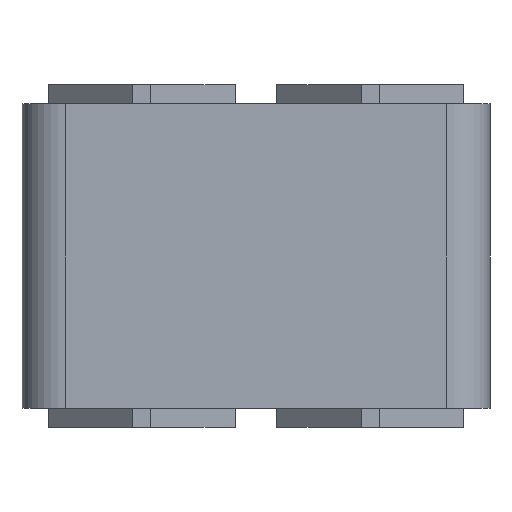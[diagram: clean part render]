
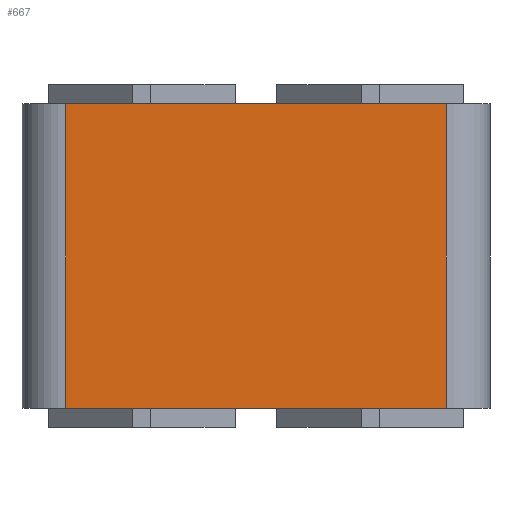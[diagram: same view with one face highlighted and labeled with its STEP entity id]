
A CAD part, left-side view. The second image highlights one B-rep face of the part: STEP entity #667.
In plain terms, the highlighted planar face has unit normal (-1, 0, 0).
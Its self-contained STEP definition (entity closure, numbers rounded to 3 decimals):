
#602=CARTESIAN_POINT('',(-31.5,-50.,80.0));
#603=VERTEX_POINT('',#602);
#611=CARTESIAN_POINT('',(-31.5,-50.,0.0));
#612=VERTEX_POINT('',#611);
#613=CARTESIAN_POINT('',(-31.5,-50.,0.0));
#614=DIRECTION('',(0.0,0.0,1.0));
#615=VECTOR('',#614,80.0);
#616=LINE('',#613,#615);
#617=EDGE_CURVE('',#612,#603,#616,.T.);
#637=CARTESIAN_POINT('',(-31.5,-50.,0.0));
#638=DIRECTION('',(-1.0,0.,0.0));
#639=DIRECTION('',(0.0,0.0,1.0));
#640=AXIS2_PLACEMENT_3D('',#637,#638,#639);
#641=PLANE('',#640);
#642=CARTESIAN_POINT('',(-31.5,50.,80.0));
#643=VERTEX_POINT('',#642);
#644=CARTESIAN_POINT('',(-31.5,-50.,80.0));
#645=DIRECTION('',(0.,1.0,0.0));
#646=VECTOR('',#645,100.);
#647=LINE('',#644,#646);
#648=EDGE_CURVE('',#603,#643,#647,.T.);
#649=ORIENTED_EDGE('',*,*,#648,.T.);
#650=CARTESIAN_POINT('',(-31.5,50.,0.0));
#651=VERTEX_POINT('',#650);
#652=CARTESIAN_POINT('',(-31.5,50.,0.0));
#653=DIRECTION('',(0.0,0.0,1.0));
#654=VECTOR('',#653,80.0);
#655=LINE('',#652,#654);
#656=EDGE_CURVE('',#651,#643,#655,.T.);
#657=ORIENTED_EDGE('',*,*,#656,.F.);
#658=CARTESIAN_POINT('',(-31.5,50.,0.0));
#659=DIRECTION('',(0.,-1.0,0.0));
#660=VECTOR('',#659,100.);
#661=LINE('',#658,#660);
#662=EDGE_CURVE('',#651,#612,#661,.T.);
#663=ORIENTED_EDGE('',*,*,#662,.T.);
#664=ORIENTED_EDGE('',*,*,#617,.T.);
#665=EDGE_LOOP('',(#649,#657,#663,#664));
#666=FACE_OUTER_BOUND('',#665,.T.);
#667=ADVANCED_FACE('',(#666),#641,.T.);
